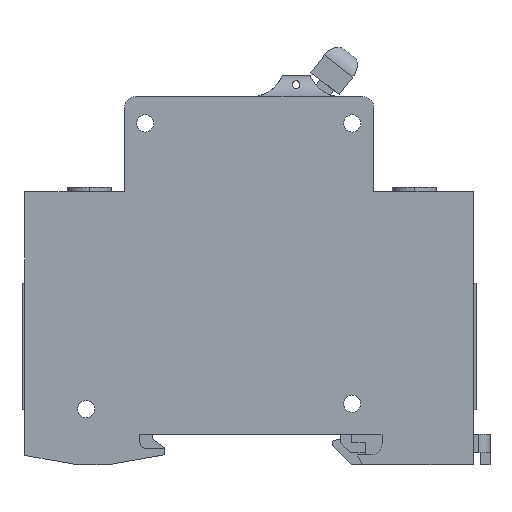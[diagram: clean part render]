
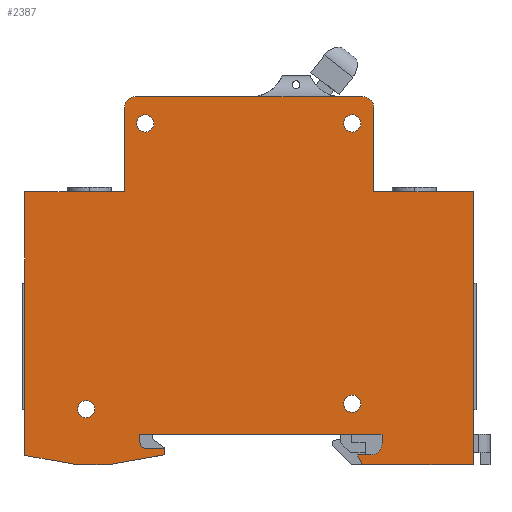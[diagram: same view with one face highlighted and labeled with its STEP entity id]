
A CAD part, left-side view. The second image highlights one B-rep face of the part: STEP entity #2387.
In plain terms, the highlighted planar face has unit normal (-1, 0, 0).
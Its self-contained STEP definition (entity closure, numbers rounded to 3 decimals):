
#2=CARTESIAN_POINT('',(-8.925,29.396,-23.187));
#3=DIRECTION('',(1.,0.,0.));
#4=DIRECTION('',(0.,1.,0.));
#5=AXIS2_PLACEMENT_3D('',#2,#3,#4);
#7=CARTESIAN_POINT('',(-8.925,29.396,-23.187));
#8=DIRECTION('',(1.,0.,0.));
#9=DIRECTION('',(0.,-1.,0.));
#10=AXIS2_PLACEMENT_3D('',#7,#8,#9);
#12=CARTESIAN_POINT('',(-8.925,-18.62,-22.194));
#13=DIRECTION('',(1.,0.,0.));
#14=DIRECTION('',(0.,1.,0.));
#15=AXIS2_PLACEMENT_3D('',#12,#13,#14);
#17=CARTESIAN_POINT('',(-8.925,-18.62,-22.194));
#18=DIRECTION('',(1.,0.,0.));
#19=DIRECTION('',(0.,-1.,0.));
#20=AXIS2_PLACEMENT_3D('',#17,#18,#19);
#22=CARTESIAN_POINT('',(-8.925,-18.62,28.401));
#23=DIRECTION('',(1.,0.,0.));
#24=DIRECTION('',(0.,1.,0.));
#25=AXIS2_PLACEMENT_3D('',#22,#23,#24);
#27=CARTESIAN_POINT('',(-8.925,-18.62,28.401));
#28=DIRECTION('',(1.,0.,0.));
#29=DIRECTION('',(0.,-1.,0.));
#30=AXIS2_PLACEMENT_3D('',#27,#28,#29);
#32=CARTESIAN_POINT('',(-8.925,18.741,28.401));
#33=DIRECTION('',(1.,0.,0.));
#34=DIRECTION('',(0.,1.,0.));
#35=AXIS2_PLACEMENT_3D('',#32,#33,#34);
#37=CARTESIAN_POINT('',(-8.925,18.741,28.401));
#38=DIRECTION('',(1.,0.,0.));
#39=DIRECTION('',(0.,-1.,0.));
#40=AXIS2_PLACEMENT_3D('',#37,#38,#39);
#42=DIRECTION('',(0.,0.,1.));
#43=VECTOR('',#42,1.5);
#44=CARTESIAN_POINT('',(-8.925,19.7,-29.25));
#45=LINE('',#44,#43);
#46=CARTESIAN_POINT('',(-8.925,18.7,-29.25));
#47=DIRECTION('',(1.,0.,0.));
#48=DIRECTION('',(0.,0.,-1.));
#49=AXIS2_PLACEMENT_3D('',#46,#47,#48);
#51=DIRECTION('',(0.,1.,0.));
#52=VECTOR('',#51,3.5);
#53=CARTESIAN_POINT('',(-8.925,15.2,-30.25));
#54=LINE('',#53,#52);
#55=DIRECTION('',(0.,0.,-1.));
#56=VECTOR('',#55,1.166);
#57=CARTESIAN_POINT('',(-8.925,15.2,-30.25));
#58=LINE('',#57,#56);
#59=DIRECTION('',(0.,0.985,-0.174));
#60=VECTOR('',#59,10.56);
#61=CARTESIAN_POINT('',(-8.925,15.2,-31.416));
#62=LINE('',#61,#60);
#63=DIRECTION('',(0.,1.,0.));
#64=VECTOR('',#63,5.2);
#65=CARTESIAN_POINT('',(-8.925,25.6,-33.25));
#66=LINE('',#65,#64);
#67=DIRECTION('',(0.,0.985,0.174));
#68=VECTOR('',#67,9.85);
#69=CARTESIAN_POINT('',(-8.925,30.8,-33.25));
#70=LINE('',#69,#68);
#71=DIRECTION('',(0.,0.,1.));
#72=VECTOR('',#71,47.59);
#73=CARTESIAN_POINT('',(-8.925,40.5,-31.54));
#74=LINE('',#73,#72);
#75=DIRECTION('',(0.,-1.,0.));
#76=VECTOR('',#75,18.);
#77=CARTESIAN_POINT('',(-8.925,40.5,16.05));
#78=LINE('',#77,#76);
#79=DIRECTION('',(0.,0.,1.));
#80=VECTOR('',#79,15.2);
#81=CARTESIAN_POINT('',(-8.925,22.5,16.05));
#82=LINE('',#81,#80);
#83=CARTESIAN_POINT('',(-8.925,20.5,31.25));
#84=DIRECTION('',(1.,0.,0.));
#85=DIRECTION('',(0.,1.,0.));
#86=AXIS2_PLACEMENT_3D('',#83,#84,#85);
#88=DIRECTION('',(0.,-1.,0.));
#89=VECTOR('',#88,20.987);
#90=CARTESIAN_POINT('',(-8.925,20.5,33.25));
#91=LINE('',#90,#89);
#92=DIRECTION('',(0.,-1.,0.));
#93=VECTOR('',#92,16.008);
#94=CARTESIAN_POINT('',(-8.925,-0.487,33.25));
#95=LINE('',#94,#93);
#96=DIRECTION('',(0.,-1.,0.));
#97=VECTOR('',#96,4.005);
#98=CARTESIAN_POINT('',(-8.925,-16.495,33.25));
#99=LINE('',#98,#97);
#100=CARTESIAN_POINT('',(-8.925,-20.5,31.25));
#101=DIRECTION('',(1.,0.,0.));
#102=DIRECTION('',(0.,0.,1.));
#103=AXIS2_PLACEMENT_3D('',#100,#101,#102);
#105=DIRECTION('',(0.,0.,-1.));
#106=VECTOR('',#105,15.2);
#107=CARTESIAN_POINT('',(-8.925,-22.5,31.25));
#108=LINE('',#107,#106);
#109=DIRECTION('',(0.,-1.,0.));
#110=VECTOR('',#109,18.);
#111=CARTESIAN_POINT('',(-8.925,-22.5,16.05));
#112=LINE('',#111,#110);
#113=DIRECTION('',(0.,0.,-1.));
#114=VECTOR('',#113,49.3);
#115=CARTESIAN_POINT('',(-8.925,-40.5,16.05));
#116=LINE('',#115,#114);
#117=DIRECTION('',(0.,1.,0.));
#118=VECTOR('',#117,20.04);
#119=CARTESIAN_POINT('',(-8.925,-40.5,-33.25));
#120=LINE('',#119,#118);
#121=DIRECTION('',(0.,0.447,0.894));
#122=VECTOR('',#121,2.013);
#123=CARTESIAN_POINT('',(-8.925,-20.46,-33.25));
#124=LINE('',#123,#122);
#125=CARTESIAN_POINT('',(-8.925,-22.,-29.45));
#126=DIRECTION('',(1.,0.,0.));
#127=DIRECTION('',(0.,-1.,0.));
#128=AXIS2_PLACEMENT_3D('',#125,#126,#127);
#130=DIRECTION('',(0.,0.,-1.));
#131=VECTOR('',#130,1.7);
#132=CARTESIAN_POINT('',(-8.925,-24.,-27.75));
#133=LINE('',#132,#131);
#796=DIRECTION('',(0.,-1.,0.));
#797=VECTOR('',#796,43.7);
#798=CARTESIAN_POINT('',(-8.925,19.7,-27.75));
#799=LINE('',#798,#797);
#978=DIRECTION('',(0.,1.,0.));
#979=VECTOR('',#978,2.44);
#980=CARTESIAN_POINT('',(-8.925,-22.,-31.45));
#981=LINE('',#980,#979);
#1776=CARTESIAN_POINT('',(-8.925,40.5,16.05));
#1777=CARTESIAN_POINT('',(-8.925,22.5,16.05));
#1778=VERTEX_POINT('',#1776);
#1779=VERTEX_POINT('',#1777);
#1780=CARTESIAN_POINT('',(-8.925,22.5,31.25));
#1781=VERTEX_POINT('',#1780);
#1782=CARTESIAN_POINT('',(-8.925,20.5,33.25));
#1783=VERTEX_POINT('',#1782);
#1784=CARTESIAN_POINT('',(-8.925,-20.5,33.25));
#1785=CARTESIAN_POINT('',(-8.925,-22.5,31.25));
#1786=VERTEX_POINT('',#1784);
#1787=VERTEX_POINT('',#1785);
#1788=CARTESIAN_POINT('',(-8.925,-22.5,16.05));
#1789=VERTEX_POINT('',#1788);
#1790=CARTESIAN_POINT('',(-8.925,-40.5,16.05));
#1791=VERTEX_POINT('',#1790);
#1792=CARTESIAN_POINT('',(-8.925,-40.5,-33.25));
#1793=VERTEX_POINT('',#1792);
#1794=CARTESIAN_POINT('',(-8.925,-20.46,-33.25));
#1795=VERTEX_POINT('',#1794);
#1796=CARTESIAN_POINT('',(-8.925,-19.56,-31.45));
#1797=VERTEX_POINT('',#1796);
#1798=CARTESIAN_POINT('',(-8.925,15.2,-31.416));
#1799=CARTESIAN_POINT('',(-8.925,25.6,-33.25));
#1800=VERTEX_POINT('',#1798);
#1801=VERTEX_POINT('',#1799);
#1802=CARTESIAN_POINT('',(-8.925,30.8,-33.25));
#1803=VERTEX_POINT('',#1802);
#1804=CARTESIAN_POINT('',(-8.925,40.5,-31.54));
#1805=VERTEX_POINT('',#1804);
#2094=CARTESIAN_POINT('',(-8.925,-0.487,33.25));
#2095=CARTESIAN_POINT('',(-8.925,-16.495,33.25));
#2096=VERTEX_POINT('',#2094);
#2097=VERTEX_POINT('',#2095);
#2122=CARTESIAN_POINT('',(-8.925,30.946,-23.187));
#2123=CARTESIAN_POINT('',(-8.925,27.846,-23.187));
#2124=VERTEX_POINT('',#2122);
#2125=VERTEX_POINT('',#2123);
#2126=CARTESIAN_POINT('',(-8.925,-17.07,-22.194));
#2127=CARTESIAN_POINT('',(-8.925,-20.17,-22.194));
#2128=VERTEX_POINT('',#2126);
#2129=VERTEX_POINT('',#2127);
#2130=CARTESIAN_POINT('',(-8.925,-17.07,28.401));
#2131=CARTESIAN_POINT('',(-8.925,-20.17,28.401));
#2132=VERTEX_POINT('',#2130);
#2133=VERTEX_POINT('',#2131);
#2134=CARTESIAN_POINT('',(-8.925,20.291,28.401));
#2135=CARTESIAN_POINT('',(-8.925,17.191,28.401));
#2136=VERTEX_POINT('',#2134);
#2137=VERTEX_POINT('',#2135);
#2174=CARTESIAN_POINT('',(-8.925,-24.,-27.75));
#2175=VERTEX_POINT('',#2174);
#2176=CARTESIAN_POINT('',(-8.925,-24.,-29.45));
#2177=VERTEX_POINT('',#2176);
#2178=CARTESIAN_POINT('',(-8.925,-22.,-31.45));
#2179=VERTEX_POINT('',#2178);
#2180=CARTESIAN_POINT('',(-8.925,18.7,-30.25));
#2181=VERTEX_POINT('',#2180);
#2182=CARTESIAN_POINT('',(-8.925,19.7,-29.25));
#2183=VERTEX_POINT('',#2182);
#2184=CARTESIAN_POINT('',(-8.925,19.7,-27.75));
#2185=VERTEX_POINT('',#2184);
#2186=CARTESIAN_POINT('',(-8.925,15.2,-30.25));
#2187=VERTEX_POINT('',#2186);
#2308=CARTESIAN_POINT('',(-8.925,0.,0.));
#2309=DIRECTION('',(1.,0.,0.));
#2310=DIRECTION('',(0.,0.,-1.));
#2311=AXIS2_PLACEMENT_3D('',#2308,#2309,#2310);
#2312=PLANE('',#2311);
#2314=ORIENTED_EDGE('',*,*,#2313,.F.);
#2316=ORIENTED_EDGE('',*,*,#2315,.F.);
#2318=ORIENTED_EDGE('',*,*,#2317,.F.);
#2320=ORIENTED_EDGE('',*,*,#2319,.F.);
#2322=ORIENTED_EDGE('',*,*,#2321,.T.);
#2324=ORIENTED_EDGE('',*,*,#2323,.T.);
#2326=ORIENTED_EDGE('',*,*,#2325,.T.);
#2328=ORIENTED_EDGE('',*,*,#2327,.T.);
#2330=ORIENTED_EDGE('',*,*,#2329,.T.);
#2332=ORIENTED_EDGE('',*,*,#2331,.T.);
#2334=ORIENTED_EDGE('',*,*,#2333,.T.);
#2336=ORIENTED_EDGE('',*,*,#2335,.T.);
#2338=ORIENTED_EDGE('',*,*,#2337,.T.);
#2340=ORIENTED_EDGE('',*,*,#2339,.T.);
#2342=ORIENTED_EDGE('',*,*,#2341,.T.);
#2344=ORIENTED_EDGE('',*,*,#2343,.T.);
#2346=ORIENTED_EDGE('',*,*,#2345,.T.);
#2348=ORIENTED_EDGE('',*,*,#2347,.T.);
#2350=ORIENTED_EDGE('',*,*,#2349,.T.);
#2352=ORIENTED_EDGE('',*,*,#2351,.T.);
#2354=ORIENTED_EDGE('',*,*,#2353,.T.);
#2356=ORIENTED_EDGE('',*,*,#2355,.F.);
#2358=ORIENTED_EDGE('',*,*,#2357,.F.);
#2360=ORIENTED_EDGE('',*,*,#2359,.F.);
#2361=EDGE_LOOP('',(#2314,#2316,#2318,#2320,#2322,#2324,#2326,#2328,#2330,#2332,
#2334,#2336,#2338,#2340,#2342,#2344,#2346,#2348,#2350,#2352,#2354,#2356,#2358,
#2360));
#2362=FACE_OUTER_BOUND('',#2361,.F.);
#2364=ORIENTED_EDGE('',*,*,#2363,.F.);
#2366=ORIENTED_EDGE('',*,*,#2365,.F.);
#2367=EDGE_LOOP('',(#2364,#2366));
#2368=FACE_BOUND('',#2367,.F.);
#2370=ORIENTED_EDGE('',*,*,#2369,.F.);
#2372=ORIENTED_EDGE('',*,*,#2371,.F.);
#2373=EDGE_LOOP('',(#2370,#2372));
#2374=FACE_BOUND('',#2373,.F.);
#2376=ORIENTED_EDGE('',*,*,#2375,.F.);
#2378=ORIENTED_EDGE('',*,*,#2377,.F.);
#2379=EDGE_LOOP('',(#2376,#2378));
#2380=FACE_BOUND('',#2379,.F.);
#2382=ORIENTED_EDGE('',*,*,#2381,.F.);
#2384=ORIENTED_EDGE('',*,*,#2383,.F.);
#2385=EDGE_LOOP('',(#2382,#2384));
#2386=FACE_BOUND('',#2385,.F.);
#2387=ADVANCED_FACE('',(#2362,#2368,#2374,#2380,#2386),#2312,.F.);
#6=CIRCLE('',#5,1.55);
#11=CIRCLE('',#10,1.55);
#16=CIRCLE('',#15,1.55);
#21=CIRCLE('',#20,1.55);
#26=CIRCLE('',#25,1.55);
#31=CIRCLE('',#30,1.55);
#36=CIRCLE('',#35,1.55);
#41=CIRCLE('',#40,1.55);
#50=CIRCLE('',#49,1.);
#87=CIRCLE('',#86,2.);
#104=CIRCLE('',#103,2.);
#129=CIRCLE('',#128,2.);
#2313=EDGE_CURVE('',#2185,#2175,#799,.T.);
#2315=EDGE_CURVE('',#2183,#2185,#45,.T.);
#2317=EDGE_CURVE('',#2181,#2183,#50,.T.);
#2319=EDGE_CURVE('',#2187,#2181,#54,.T.);
#2321=EDGE_CURVE('',#2187,#1800,#58,.T.);
#2323=EDGE_CURVE('',#1800,#1801,#62,.T.);
#2325=EDGE_CURVE('',#1801,#1803,#66,.T.);
#2327=EDGE_CURVE('',#1803,#1805,#70,.T.);
#2329=EDGE_CURVE('',#1805,#1778,#74,.T.);
#2331=EDGE_CURVE('',#1778,#1779,#78,.T.);
#2333=EDGE_CURVE('',#1779,#1781,#82,.T.);
#2335=EDGE_CURVE('',#1781,#1783,#87,.T.);
#2337=EDGE_CURVE('',#1783,#2096,#91,.T.);
#2339=EDGE_CURVE('',#2096,#2097,#95,.T.);
#2341=EDGE_CURVE('',#2097,#1786,#99,.T.);
#2343=EDGE_CURVE('',#1786,#1787,#104,.T.);
#2345=EDGE_CURVE('',#1787,#1789,#108,.T.);
#2347=EDGE_CURVE('',#1789,#1791,#112,.T.);
#2349=EDGE_CURVE('',#1791,#1793,#116,.T.);
#2351=EDGE_CURVE('',#1793,#1795,#120,.T.);
#2353=EDGE_CURVE('',#1795,#1797,#124,.T.);
#2355=EDGE_CURVE('',#2179,#1797,#981,.T.);
#2357=EDGE_CURVE('',#2177,#2179,#129,.T.);
#2359=EDGE_CURVE('',#2175,#2177,#133,.T.);
#2363=EDGE_CURVE('',#2124,#2125,#6,.T.);
#2365=EDGE_CURVE('',#2125,#2124,#11,.T.);
#2369=EDGE_CURVE('',#2128,#2129,#16,.T.);
#2371=EDGE_CURVE('',#2129,#2128,#21,.T.);
#2375=EDGE_CURVE('',#2132,#2133,#26,.T.);
#2377=EDGE_CURVE('',#2133,#2132,#31,.T.);
#2381=EDGE_CURVE('',#2136,#2137,#36,.T.);
#2383=EDGE_CURVE('',#2137,#2136,#41,.T.);
